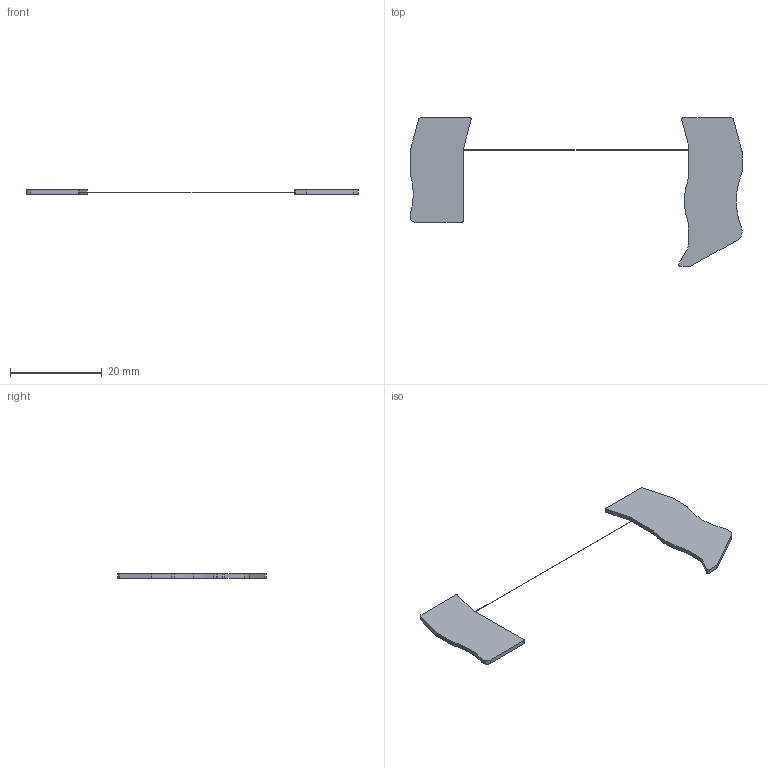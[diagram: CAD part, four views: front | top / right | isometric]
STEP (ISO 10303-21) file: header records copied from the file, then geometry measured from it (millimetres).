
FILE_DESCRIPTION(('OneSpaceDesigner STEP Export'),'2;1');
FILE_NAME('3036602_ds-st_25-select.stp','2005-11-23T14:11:54',(''),(''),'OneSpace Designer STEP processor for AP203 (Solid Model)','OneSpace Designer 13.01 05-Feb-2005 (C) CoCreate Software GmbH','');
FILE_SCHEMA(('CONFIG_CONTROL_DESIGN'));
Length unit declared in the file: millimetre
Products named in the file (2): 3036602_ds-st_25-select
Assembly tree (1 placements, depth 2):
  3036602_ds-st_25-select
    3036602_ds-st_25-select
Bounding box: 72.2 x 32.25 x 0.9 mm (x, y, z)
Volume: 537.1 mm3; surface area: 1337.5 mm2
Topology: 1 solids, 1 shells, 53 faces, 147 edges, 98 vertices
Faces by surface type: cylinder 28, plane 25
Entity records: 2217 total; most frequent: ORIENTED_EDGE 294, CARTESIAN_POINT 282, DIRECTION 277, EDGE_CURVE 147, VERTEX_POINT 98, AXIS2_PLACEMENT_3D 93, VECTOR 91, LINE 91
